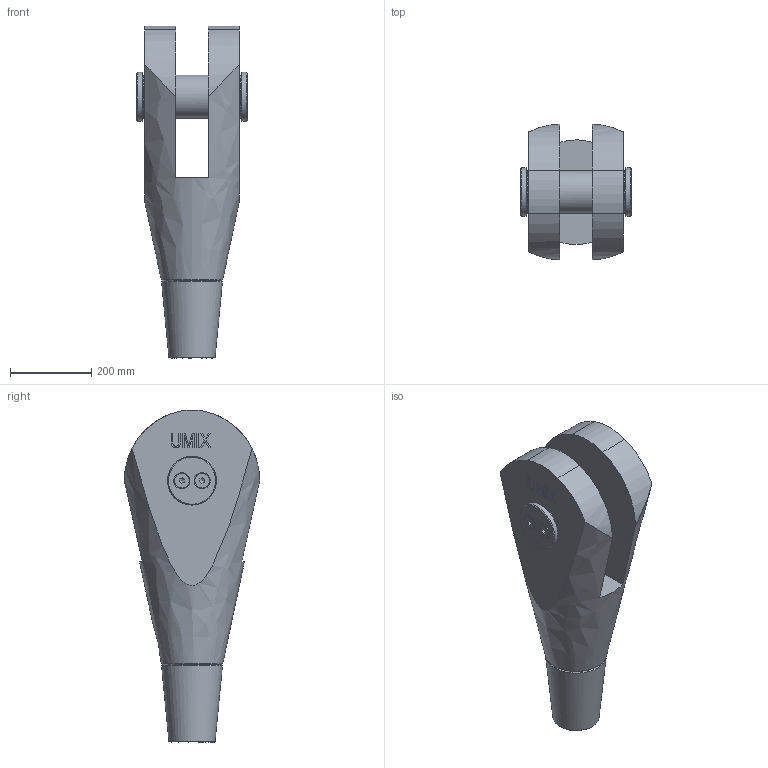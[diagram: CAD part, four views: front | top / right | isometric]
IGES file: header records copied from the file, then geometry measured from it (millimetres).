
Global section: file name: 520-100-GAK; native system: Autodesk Inventor 2016; preprocessor: unknown; author: Administrator; date: 20200625.080632; units: centimetre
Bounding box: 275 x 333.1 x 816.94 mm (x, y, z)
Volume: 25287500.5 mm3; surface area: 992667.4 mm2
Topology: 2 solids, 10 shells, 241 faces, 638 edges, 429 vertices
Faces by surface type: bspline 241
